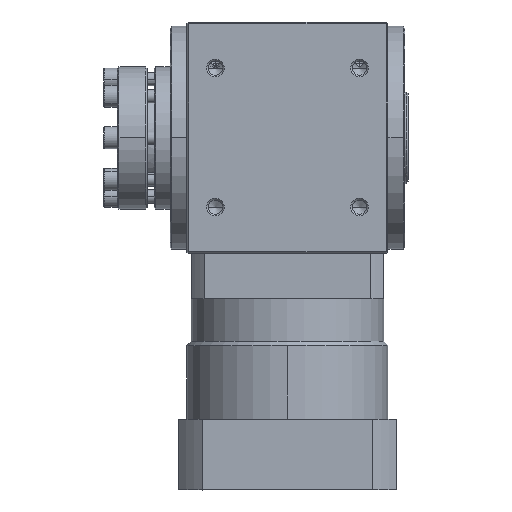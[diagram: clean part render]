
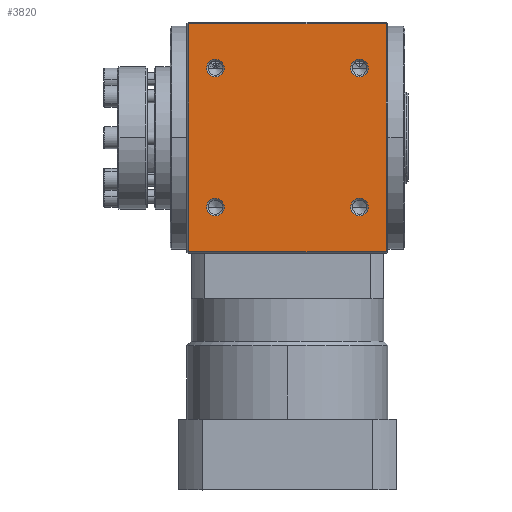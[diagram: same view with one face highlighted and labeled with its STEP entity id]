
A CAD part, top view. The second image highlights one B-rep face of the part: STEP entity #3820.
In plain terms, the highlighted planar face has unit normal (0, 0, 1).
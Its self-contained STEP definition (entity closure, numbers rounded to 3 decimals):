
#60 = CARTESIAN_POINT ( 'NONE',  ( 0., -68., 69. ) ) ;
#147 = ORIENTED_EDGE ( 'NONE', *, *, #7792, .F. ) ;
#393 = EDGE_LOOP ( 'NONE', ( #5801, #4330 ) ) ;
#426 = DIRECTION ( 'NONE',  ( 0., 0., 1. ) ) ;
#589 = AXIS2_PLACEMENT_3D ( 'NONE', #6676, #2089, #7365 ) ;
#630 = CARTESIAN_POINT ( 'NONE',  ( 59., 0., 69. ) ) ;
#642 = AXIS2_PLACEMENT_3D ( 'NONE', #4206, #4183, #4166 ) ;
#702 = CARTESIAN_POINT ( 'NONE',  ( -37.75, 41.5, 69. ) ) ;
#813 = AXIS2_PLACEMENT_3D ( 'NONE', #9098, #9133, #9154 ) ;
#1285 = VERTEX_POINT ( 'NONE', #6116 ) ;
#1471 = DIRECTION ( 'NONE',  ( 1., 0., 0. ) ) ;
#1515 = CARTESIAN_POINT ( 'NONE',  ( 59., 68., 69. ) ) ;
#1974 = EDGE_CURVE ( 'NONE', #9474, #6742, #4168, .T. ) ;
#2015 = ORIENTED_EDGE ( 'NONE', *, *, #3908, .F. ) ;
#2089 = DIRECTION ( 'NONE',  ( 0., 0., 1. ) ) ;
#2118 = ORIENTED_EDGE ( 'NONE', *, *, #7848, .F. ) ;
#2342 = VERTEX_POINT ( 'NONE', #9516 ) ;
#2524 = ORIENTED_EDGE ( 'NONE', *, *, #7582, .F. ) ;
#2587 = CIRCLE ( 'NONE', #6363, 5.25 ) ;
#2619 = CARTESIAN_POINT ( 'NONE',  ( -43., 41.5, 69. ) ) ;
#3079 = EDGE_CURVE ( 'NONE', #7625, #1285, #9302, .T. ) ;
#3342 = ORIENTED_EDGE ( 'NONE', *, *, #1974, .F. ) ;
#3347 = AXIS2_PLACEMENT_3D ( 'NONE', #4250, #9247, #5035 ) ;
#3395 = DIRECTION ( 'NONE',  ( 1., 0., 0. ) ) ;
#3397 = AXIS2_PLACEMENT_3D ( 'NONE', #5165, #426, #5919 ) ;
#3507 = EDGE_CURVE ( 'NONE', #4187, #5766, #7752, .T. ) ;
#3610 = VECTOR ( 'NONE', #8218, 1000. ) ;
#3708 = CARTESIAN_POINT ( 'NONE',  ( -48.25, 41.5, 69. ) ) ;
#3716 = LINE ( 'NONE', #630, #3610 ) ;
#3773 = CARTESIAN_POINT ( 'NONE',  ( 59., -68., 69. ) ) ;
#3820 = ADVANCED_FACE ( 'NONE', ( #6077, #6192, #6172, #6157, #6074 ), #9397, .F. ) ;
#3828 = CARTESIAN_POINT ( 'NONE',  ( 0., 68., 69. ) ) ;
#3908 = EDGE_CURVE ( 'NONE', #8732, #5207, #5619, .T. ) ;
#4094 = EDGE_CURVE ( 'NONE', #2342, #8240, #4893, .T. ) ;
#4112 = LINE ( 'NONE', #3828, #4733 ) ;
#4164 = AXIS2_PLACEMENT_3D ( 'NONE', #5407, #5394, #5360 ) ;
#4166 = DIRECTION ( 'NONE',  ( 1., 0., 0. ) ) ;
#4168 = CIRCLE ( 'NONE', #813, 5.25 ) ;
#4183 = DIRECTION ( 'NONE',  ( 0., 0., 1. ) ) ;
#4187 = VERTEX_POINT ( 'NONE', #7755 ) ;
#4206 = CARTESIAN_POINT ( 'NONE',  ( 43., 41.5, 69. ) ) ;
#4250 = CARTESIAN_POINT ( 'NONE',  ( 43., 41.5, 69. ) ) ;
#4330 = ORIENTED_EDGE ( 'NONE', *, *, #3507, .F. ) ;
#4373 = CARTESIAN_POINT ( 'NONE',  ( 48.25, 41.5, 69. ) ) ;
#4733 = VECTOR ( 'NONE', #1471, 1000. ) ;
#4753 = VECTOR ( 'NONE', #6702, 1000. ) ;
#4789 = DIRECTION ( 'NONE',  ( -1., 0., 0. ) ) ;
#4893 = LINE ( 'NONE', #6966, #4753 ) ;
#5035 = DIRECTION ( 'NONE',  ( 1., 0., 0. ) ) ;
#5165 = CARTESIAN_POINT ( 'NONE',  ( 43., -41.5, 69. ) ) ;
#5207 = VERTEX_POINT ( 'NONE', #702 ) ;
#5290 = CIRCLE ( 'NONE', #3347, 5.25 ) ;
#5360 = DIRECTION ( 'NONE',  ( 1., 0., 0. ) ) ;
#5394 = DIRECTION ( 'NONE',  ( 0., 0., 1. ) ) ;
#5407 = CARTESIAN_POINT ( 'NONE',  ( 43., -41.5, 69. ) ) ;
#5570 = EDGE_LOOP ( 'NONE', ( #147, #5983 ) ) ;
#5619 = CIRCLE ( 'NONE', #8603, 5.25 ) ;
#5766 = VERTEX_POINT ( 'NONE', #4373 ) ;
#5801 = ORIENTED_EDGE ( 'NONE', *, *, #7639, .F. ) ;
#5919 = DIRECTION ( 'NONE',  ( 1., 0., 0. ) ) ;
#5983 = ORIENTED_EDGE ( 'NONE', *, *, #3079, .F. ) ;
#6074 = FACE_OUTER_BOUND ( 'NONE', #7346, .T. ) ;
#6077 = FACE_BOUND ( 'NONE', #7179, .T. ) ;
#6116 = CARTESIAN_POINT ( 'NONE',  ( 48.25, -41.5, 69. ) ) ;
#6157 = FACE_BOUND ( 'NONE', #8484, .T. ) ;
#6172 = FACE_BOUND ( 'NONE', #5570, .T. ) ;
#6192 = FACE_BOUND ( 'NONE', #393, .T. ) ;
#6358 = ORIENTED_EDGE ( 'NONE', *, *, #7471, .F. ) ;
#6363 = AXIS2_PLACEMENT_3D ( 'NONE', #2619, #7852, #3395 ) ;
#6525 = DIRECTION ( 'NONE',  ( 1., 0., 0. ) ) ;
#6551 = VERTEX_POINT ( 'NONE', #3773 ) ;
#6676 = CARTESIAN_POINT ( 'NONE',  ( -43., -41.5, 69. ) ) ;
#6702 = DIRECTION ( 'NONE',  ( 0., -1., 0. ) ) ;
#6742 = VERTEX_POINT ( 'NONE', #8119 ) ;
#6822 = ORIENTED_EDGE ( 'NONE', *, *, #8047, .F. ) ;
#6825 = CARTESIAN_POINT ( 'NONE',  ( -48.25, -41.5, 69. ) ) ;
#6919 = CIRCLE ( 'NONE', #3397, 5.25 ) ;
#6966 = CARTESIAN_POINT ( 'NONE',  ( -59., 0., 69. ) ) ;
#7171 = CARTESIAN_POINT ( 'NONE',  ( 37.75, -41.5, 69. ) ) ;
#7179 = EDGE_LOOP ( 'NONE', ( #2524, #2015 ) ) ;
#7303 = AXIS2_PLACEMENT_3D ( 'NONE', #8771, #8760, #8747 ) ;
#7322 = VERTEX_POINT ( 'NONE', #1515 ) ;
#7346 = EDGE_LOOP ( 'NONE', ( #8492, #6822, #8006, #6358 ) ) ;
#7365 = DIRECTION ( 'NONE',  ( 1., 0., 0. ) ) ;
#7471 = EDGE_CURVE ( 'NONE', #6551, #8240, #9412, .T. ) ;
#7582 = EDGE_CURVE ( 'NONE', #5207, #8732, #2587, .T. ) ;
#7625 = VERTEX_POINT ( 'NONE', #7171 ) ;
#7639 = EDGE_CURVE ( 'NONE', #5766, #4187, #5290, .T. ) ;
#7752 = CIRCLE ( 'NONE', #642, 5.25 ) ;
#7755 = CARTESIAN_POINT ( 'NONE',  ( 37.75, 41.5, 69. ) ) ;
#7792 = EDGE_CURVE ( 'NONE', #1285, #7625, #6919, .T. ) ;
#7848 = EDGE_CURVE ( 'NONE', #6742, #9474, #9477, .T. ) ;
#7852 = DIRECTION ( 'NONE',  ( 0., 0., 1. ) ) ;
#8006 = ORIENTED_EDGE ( 'NONE', *, *, #4094, .T. ) ;
#8033 = EDGE_CURVE ( 'NONE', #7322, #6551, #3716, .T. ) ;
#8047 = EDGE_CURVE ( 'NONE', #2342, #7322, #4112, .T. ) ;
#8119 = CARTESIAN_POINT ( 'NONE',  ( -37.75, -41.5, 69. ) ) ;
#8218 = DIRECTION ( 'NONE',  ( 0., -1., 0. ) ) ;
#8240 = VERTEX_POINT ( 'NONE', #8997 ) ;
#8440 = CARTESIAN_POINT ( 'NONE',  ( -43., 41.5, 69. ) ) ;
#8484 = EDGE_LOOP ( 'NONE', ( #2118, #3342 ) ) ;
#8492 = ORIENTED_EDGE ( 'NONE', *, *, #8033, .F. ) ;
#8603 = AXIS2_PLACEMENT_3D ( 'NONE', #8440, #9227, #6525 ) ;
#8732 = VERTEX_POINT ( 'NONE', #3708 ) ;
#8747 = DIRECTION ( 'NONE',  ( 0., 1., 0. ) ) ;
#8760 = DIRECTION ( 'NONE',  ( 0., 0., -1. ) ) ;
#8771 = CARTESIAN_POINT ( 'NONE',  ( -59., -68., 69. ) ) ;
#8997 = CARTESIAN_POINT ( 'NONE',  ( -59., -68., 69. ) ) ;
#9098 = CARTESIAN_POINT ( 'NONE',  ( -43., -41.5, 69. ) ) ;
#9133 = DIRECTION ( 'NONE',  ( 0., 0., 1. ) ) ;
#9154 = DIRECTION ( 'NONE',  ( 1., 0., 0. ) ) ;
#9227 = DIRECTION ( 'NONE',  ( 0., 0., 1. ) ) ;
#9247 = DIRECTION ( 'NONE',  ( 0., 0., 1. ) ) ;
#9302 = CIRCLE ( 'NONE', #4164, 5.25 ) ;
#9397 = PLANE ( 'NONE',  #7303 ) ;
#9412 = LINE ( 'NONE', #60, #9580 ) ;
#9474 = VERTEX_POINT ( 'NONE', #6825 ) ;
#9477 = CIRCLE ( 'NONE', #589, 5.25 ) ;
#9516 = CARTESIAN_POINT ( 'NONE',  ( -59., 68., 69. ) ) ;
#9580 = VECTOR ( 'NONE', #4789, 1000. ) ;
